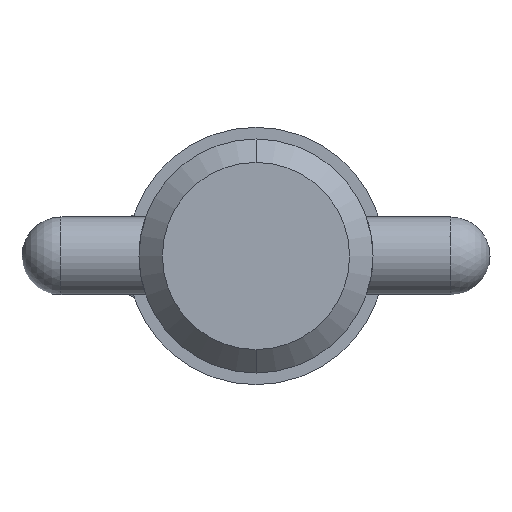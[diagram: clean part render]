
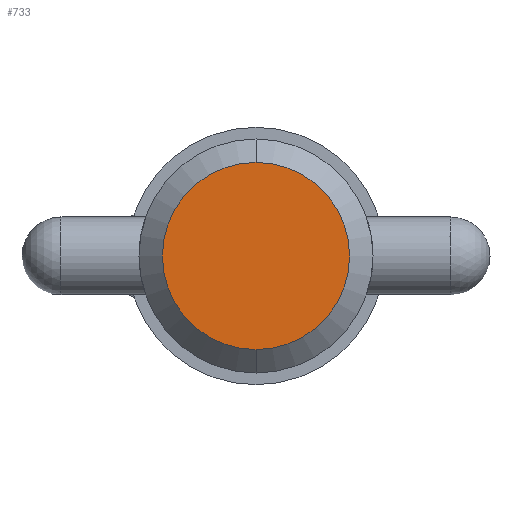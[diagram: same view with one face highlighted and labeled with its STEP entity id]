
A CAD part, left-side view. The second image highlights one B-rep face of the part: STEP entity #733.
In plain terms, the highlighted planar face has unit normal (-1, 0, 0).
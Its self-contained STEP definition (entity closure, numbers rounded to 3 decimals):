
#133 = CARTESIAN_POINT ( 'NONE',  ( 0., 0., 0. ) ) ;
#153 = VERTEX_POINT ( 'NONE', #1004 ) ;
#249 = CARTESIAN_POINT ( 'NONE',  ( 0., 0., 0. ) ) ;
#275 = DIRECTION ( 'NONE',  ( -1., 0., 0. ) ) ;
#302 = CIRCLE ( 'NONE', #719, 7.62 ) ;
#319 = CARTESIAN_POINT ( 'NONE',  ( 0., 0., 0. ) ) ;
#332 = ORIENTED_EDGE ( 'NONE', *, *, #638, .F. ) ;
#371 = DIRECTION ( 'NONE',  ( 1., 0., 0. ) ) ;
#398 = AXIS2_PLACEMENT_3D ( 'NONE', #249, #275, #1002 ) ;
#417 = ORIENTED_EDGE ( 'NONE', *, *, #924, .F. ) ;
#418 = VERTEX_POINT ( 'NONE', #984 ) ;
#454 = DIRECTION ( 'NONE',  ( 0., 0., -1. ) ) ;
#501 = EDGE_LOOP ( 'NONE', ( #332, #417 ) ) ;
#549 = CIRCLE ( 'NONE', #574, 7.62 ) ;
#574 = AXIS2_PLACEMENT_3D ( 'NONE', #133, #371, #454 ) ;
#638 = EDGE_CURVE ( 'NONE', #153, #418, #302, .T. ) ;
#719 = AXIS2_PLACEMENT_3D ( 'NONE', #319, #759, #926 ) ;
#733 = ADVANCED_FACE ( 'NONE', ( #987 ), #981, .T. ) ;
#759 = DIRECTION ( 'NONE',  ( 1., 0., 0. ) ) ;
#924 = EDGE_CURVE ( 'NONE', #418, #153, #549, .T. ) ;
#926 = DIRECTION ( 'NONE',  ( 0., 0., -1. ) ) ;
#981 = PLANE ( 'NONE',  #398 ) ;
#984 = CARTESIAN_POINT ( 'NONE',  ( 0., 0., 7.62 ) ) ;
#987 = FACE_OUTER_BOUND ( 'NONE', #501, .T. ) ;
#1002 = DIRECTION ( 'NONE',  ( 0., 0., 1. ) ) ;
#1004 = CARTESIAN_POINT ( 'NONE',  ( 0., 0., -7.62 ) ) ;
